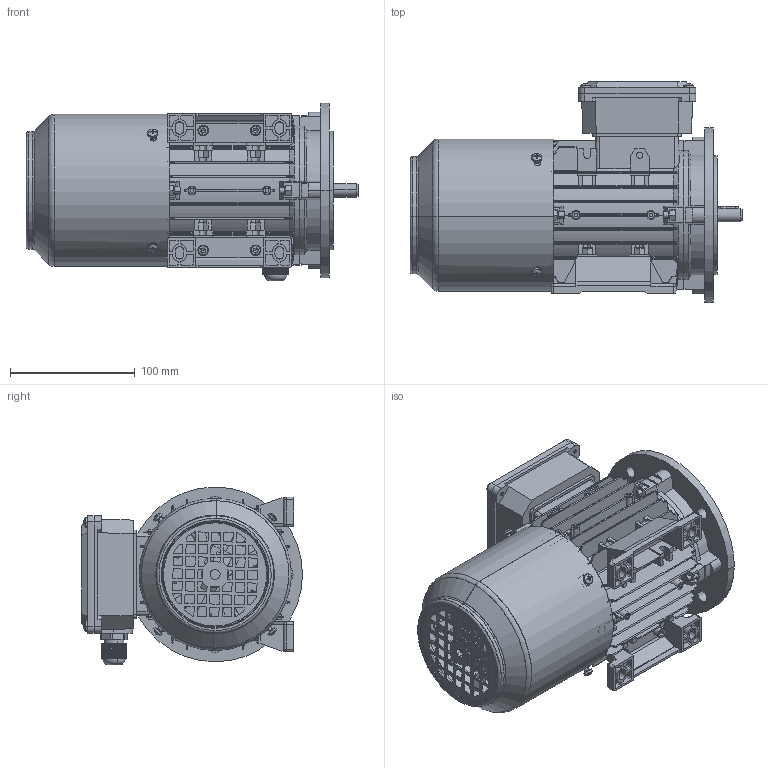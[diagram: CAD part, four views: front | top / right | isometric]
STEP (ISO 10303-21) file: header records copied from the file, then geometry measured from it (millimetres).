
FILE_DESCRIPTION (( 'STEP AP203' ), '1' );
FILE_NAME ('TB63 B35（风罩不带手柄孔）.STEP', '2021-10-20T07:03:51', ( '' ), ( '' ), 'SwSTEP 2.0', 'SolidWorks 2014', '' );
FILE_SCHEMA (( 'CONFIG_CONTROL_DESIGN' ));
Length unit declared in the file: millimetre
Products named in the file (17): TB63 綴裔; Hexagon socket head cap screws GB_GB_FASTENER_SCREWS_HSHCS M5X25-N; 堤盄蹟杶M16; TAN63 B5裔; Plain parallel keys_GB_CONNECTING_PIECE_KEYS_CSK 4X16; TB63瑞欶ㄗ祥湍忒梟謂ㄘ; MS63-71 陔諉盄碟釱; TAN63 菁褐; TB63 蛌粣; 怢宒63瑞珔囀傍; TAN63 儂褲; Hexagon nuts grade C GB_GB_FASTENER_NUT_SNC1 M5-N; TB63 B35（风罩不带手柄孔）; MS63-71 陔諉盄碟裔; Hexagon socket head cap screws GB_GB_FASTENER_SCREWS_HSHCS M5X16-N; Cross recessed thread forming screws GB_GB_CROSS_SCREWS_TYPE138 M4X10-N; 怢宒63瑞珔
Assembly tree (45 placements, depth 2):
  TB63 B35（风罩不带手柄孔）
    TAN63 儂褲
    TB63 綴裔
    MS63-71 陔諉盄碟釱
    MS63-71 陔諉盄碟裔
    堤盄蹟杶M16
    TB63 蛌粣
    Cross recessed thread forming screws GB_GB_CROSS_SCREWS_TYPE138 M4X10-N  x8
    Plain parallel keys_GB_CONNECTING_PIECE_KEYS_CSK 4X16
    Hexagon nuts grade C GB_GB_FASTENER_NUT_SNC1 M5-N  x12
    Hexagon socket head cap screws GB_GB_FASTENER_SCREWS_HSHCS M5X25-N  x8
    TAN63 菁褐  x2
    Hexagon socket head cap screws GB_GB_FASTENER_SCREWS_HSHCS M5X16-N  x4
    TAN63 B5裔
    怢宒63瑞珔囀傍
    怢宒63瑞珔
    TB63瑞欶ㄗ祥湍忒梟謂ㄘ
Bounding box: 266 x 177 x 142.54 mm (x, y, z)
Volume: 583394.8 mm3; surface area: 478947.3 mm2
Topology: 45 solids, 45 shells, 4202 faces, 11037 edges, 6992 vertices
Faces by surface type: plane 2113, cylinder 1087, bspline 478, cone 364, torus 132, sphere 28
Entity records: 123404 total; most frequent: CARTESIAN_POINT 38465, ORIENTED_EDGE 18428, DIRECTION 15697, EDGE_CURVE 9214, VERTEX_POINT 5884, AXIS2_PLACEMENT_3D 5466, VECTOR 4765, LINE 4765
